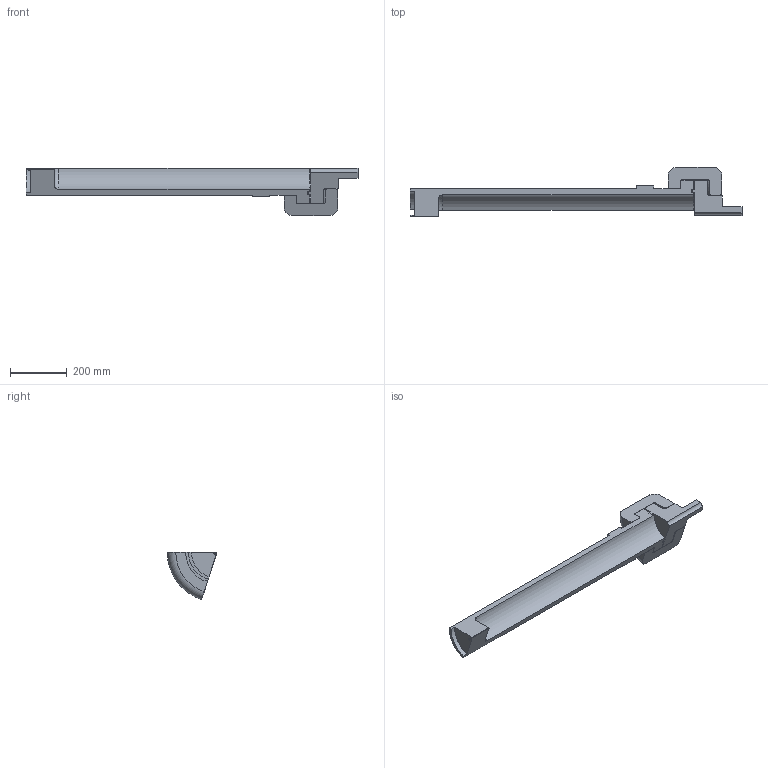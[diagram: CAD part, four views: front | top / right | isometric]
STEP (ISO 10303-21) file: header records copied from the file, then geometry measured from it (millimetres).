
FILE_DESCRIPTION (( 'STEP AP214' ), '1' );
FILE_NAME ('Assieme Pressione sezionato.STEP', '2022-08-11T08:57:14', ( '' ), ( '' ), 'SwSTEP 2.0', 'SolidWorks 2018', '' );
FILE_SCHEMA (( 'AUTOMOTIVE_DESIGN' ));
Length unit declared in the file: millimetre
Products named in the file (6): Ganascia destra_D = 350 mm H = 190 mm; Guarnizione_De = 196 mm Di = 170 mm Sp = 4 mm; Tappo_D = 260 mm H = 173 mm; Assieme Pressione sezionato; Ganascia sinistra_D = 350 mm H = 190 mm; tubo_Di = 155 mm De = 260 mm L = 1000 mm
Assembly tree (4 placements, depth 2):
  Assieme Pressione sezionato
    tubo_Di = 155 mm De = 260 mm L = 1000 mm
    Ganascia destra_D = 350 mm H = 190 mm
    Tappo_D = 260 mm H = 173 mm
    Guarnizione_De = 196 mm Di = 170 mm Sp = 4 mm
  Ganascia sinistra_D = 350 mm H = 190 mm
Bounding box: 1171 x 174.23 x 166.43 mm (x, y, z)
Volume: 5772250.3 mm3; surface area: 495974.9 mm2
Topology: 4 solids, 4 shells, 75 faces, 201 edges, 134 vertices
Faces by surface type: plane 33, cylinder 28, torus 13, cone 1
Entity records: 2752 total; most frequent: CARTESIAN_POINT 582, DIRECTION 447, ORIENTED_EDGE 402, EDGE_CURVE 201, AXIS2_PLACEMENT_3D 171, VERTEX_POINT 134, VECTOR 105, LINE 105
